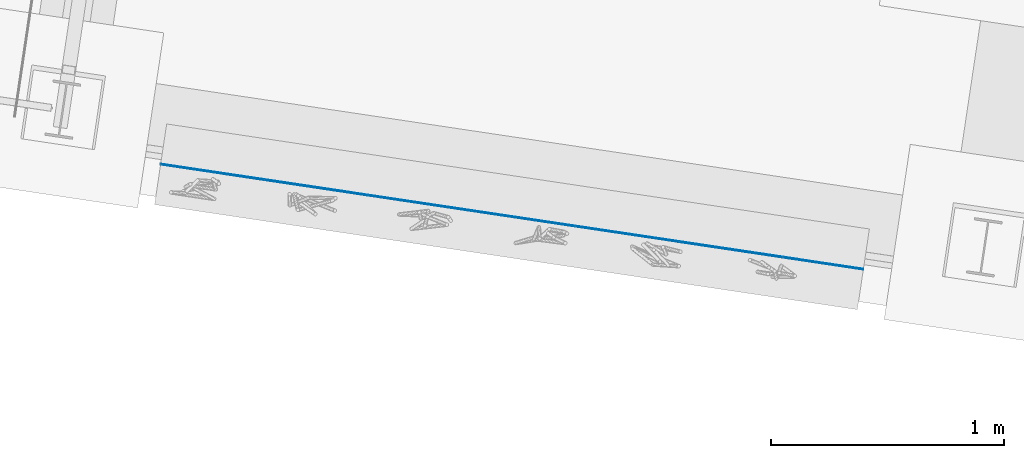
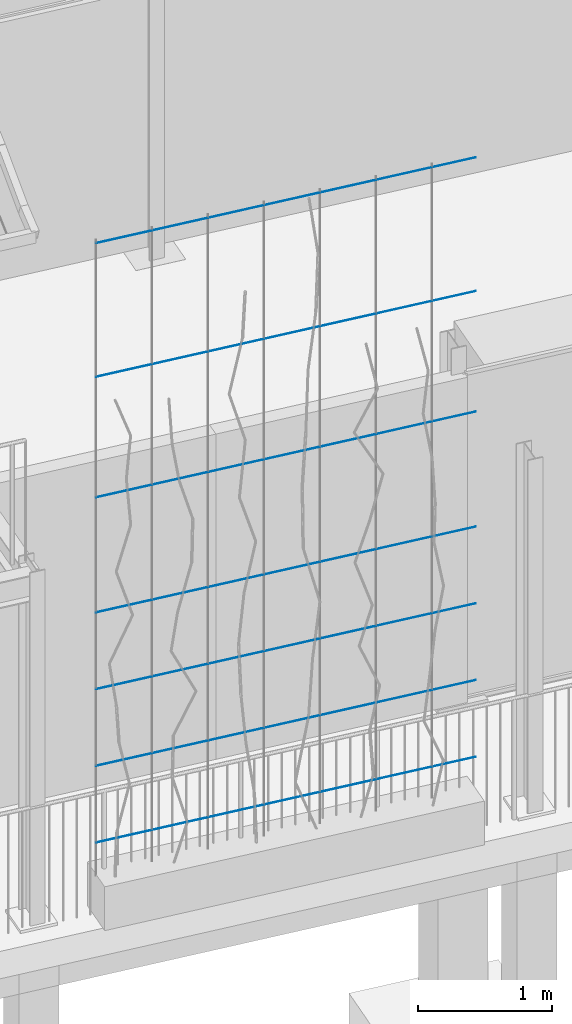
# One storey, part 23 of 143: 7 members, 1 element without a shape of its own.
"""IFC4 building model written with IfcOpenShell, lengths in metres."""

from ifc_helpers import new_model, si_unit, direction, frame, origin_with_axes, place, context, subcontext, project, spatial, circle, extrude, material, material_profile, profile_set, profile_usage, type_object, element, aggregate, save


model = new_model("IFC4")

# Units and contexts
model_context = context("Model", 3, precision=1e-05, world=origin_with_axes(), true_north=direction((0.0, 1.0)))
body_context = subcontext(model_context, "Body", "Model", "MODEL_VIEW")
ifc_project = project(units=[si_unit("VOLUMEUNIT", "CUBIC_METRE"), si_unit("LENGTHUNIT", "METRE"), si_unit("AREAUNIT", "SQUARE_METRE")], contexts=[model_context])

# Site, building, storey
site_placement = place(None, origin_with_axes())
site = spatial("IfcSite", under=ifc_project, at=site_placement, Name="Lares · Rua das Mercês · artigo 4771")
building_placement = place(site_placement, frame((15.0, 9.7, 15.8), z_axis=(0.0, 0.0, 1.0), x_axis=(0.989015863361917, -0.147809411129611, 0.0)))
building = spatial("IfcBuilding", under=site, at=building_placement, Name="Casa Sobreposta")
storey_placement = place(building_placement, origin_with_axes())
storey = spatial("IfcBuildingStorey", under=building, at=storey_placement, Name="00 · Habitação e estacionamento", Elevation=15.8)

# Assembly, members
assembly_placement = place(storey_placement, origin_with_axes())
assembly = element("IfcElementAssembly", 1, at=assembly_placement, inside=storey, Name="Fachada sul e pátio · estrutura e trepadeiras", ObjectType="LIVING_SHADE_TRELLIS", PredefinedType="USERDEFINED")
ifc_material = material(Name="Aço galvanizado / Stahl verzinkt", Category="steel")
ifc_material_profile = material_profile(ifc_material, circle(Radius=0.002))
ifc_profile_set = profile_set([ifc_material_profile], Name="D0.004")
ifc_profile_usage_1 = profile_usage(ifc_profile_set)
member_type = type_object("IfcMemberType", Name="D0.004 / galvanized", PredefinedType="NOTDEFINED", material=ifc_profile_set)
member_1_placement = place(assembly_placement, frame((0.45, -1.61, 0.65), z_axis=(1.0, 0.0, 0.0), x_axis=(0.0, -1.0, 0.0)))
member_1 = element("IfcMember", 2, at=member_1_placement, type_object=member_type, material=ifc_profile_usage_1, Name="Trepadeiras · fio horizontal", context=body_context, shape_type="SweptSolid", body=[
    extrude(circle(Radius=0.002), origin_with_axes(), (0.0, 0.0, 1.0), 3.05),
])
ifc_profile_usage_2 = profile_usage(ifc_profile_set)
member_2_placement = place(assembly_placement, frame((0.45, -1.61, 1.35), z_axis=(1.0, 0.0, 0.0), x_axis=(0.0, -1.0, 0.0)))
member_2 = element("IfcMember", 3, at=member_2_placement, type_object=member_type, material=ifc_profile_usage_2, Name="Trepadeiras · fio horizontal", context=body_context, shape_type="SweptSolid", body=[
    extrude(circle(Radius=0.002), origin_with_axes(), (0.0, 0.0, 1.0), 3.05),
])
ifc_profile_usage_3 = profile_usage(ifc_profile_set)
member_3_placement = place(assembly_placement, frame((0.45, -1.61, 2.05), z_axis=(1.0, 0.0, 0.0), x_axis=(0.0, -1.0, 0.0)))
member_3 = element("IfcMember", 4, at=member_3_placement, type_object=member_type, material=ifc_profile_usage_3, Name="Trepadeiras · fio horizontal", context=body_context, shape_type="SweptSolid", body=[
    extrude(circle(Radius=0.002), origin_with_axes(), (0.0, 0.0, 1.0), 3.05),
])
ifc_profile_usage_4 = profile_usage(ifc_profile_set)
member_4_placement = place(assembly_placement, frame((0.45, -1.61, 2.75), z_axis=(1.0, 0.0, 0.0), x_axis=(0.0, -1.0, 0.0)))
member_4 = element("IfcMember", 5, at=member_4_placement, type_object=member_type, material=ifc_profile_usage_4, Name="Trepadeiras · fio horizontal", context=body_context, shape_type="SweptSolid", body=[
    extrude(circle(Radius=0.002), origin_with_axes(), (0.0, 0.0, 1.0), 3.05),
])
ifc_profile_usage_5 = profile_usage(ifc_profile_set)
member_5_placement = place(assembly_placement, frame((0.45, -1.61, 3.8), z_axis=(1.0, 0.0, 0.0), x_axis=(0.0, -1.0, 0.0)))
member_5 = element("IfcMember", 6, at=member_5_placement, type_object=member_type, material=ifc_profile_usage_5, Name="Trepadeiras · fio horizontal", context=body_context, shape_type="SweptSolid", body=[
    extrude(circle(Radius=0.002), origin_with_axes(), (0.0, 0.0, 1.0), 3.05),
])
ifc_profile_usage_6 = profile_usage(ifc_profile_set)
member_6_placement = place(assembly_placement, frame((0.45, -1.61, 4.9), z_axis=(1.0, 0.0, 0.0), x_axis=(0.0, -1.0, 0.0)))
member_6 = element("IfcMember", 7, at=member_6_placement, type_object=member_type, material=ifc_profile_usage_6, Name="Trepadeiras · fio horizontal", context=body_context, shape_type="SweptSolid", body=[
    extrude(circle(Radius=0.002), origin_with_axes(), (0.0, 0.0, 1.0), 3.05),
])
ifc_profile_usage_7 = profile_usage(ifc_profile_set)
member_7_placement = place(assembly_placement, frame((0.45, -1.61, 6.12), z_axis=(1.0, 0.0, 0.0), x_axis=(0.0, -1.0, 0.0)))
member_7 = element("IfcMember", 8, at=member_7_placement, type_object=member_type, material=ifc_profile_usage_7, Name="Trepadeiras · fio horizontal", context=body_context, shape_type="SweptSolid", body=[
    extrude(circle(Radius=0.002), origin_with_axes(), (0.0, 0.0, 1.0), 3.05),
])
aggregate(assembly, [member_1, member_2, member_3, member_4, member_5, member_6, member_7])

save(model, "model.ifc")
